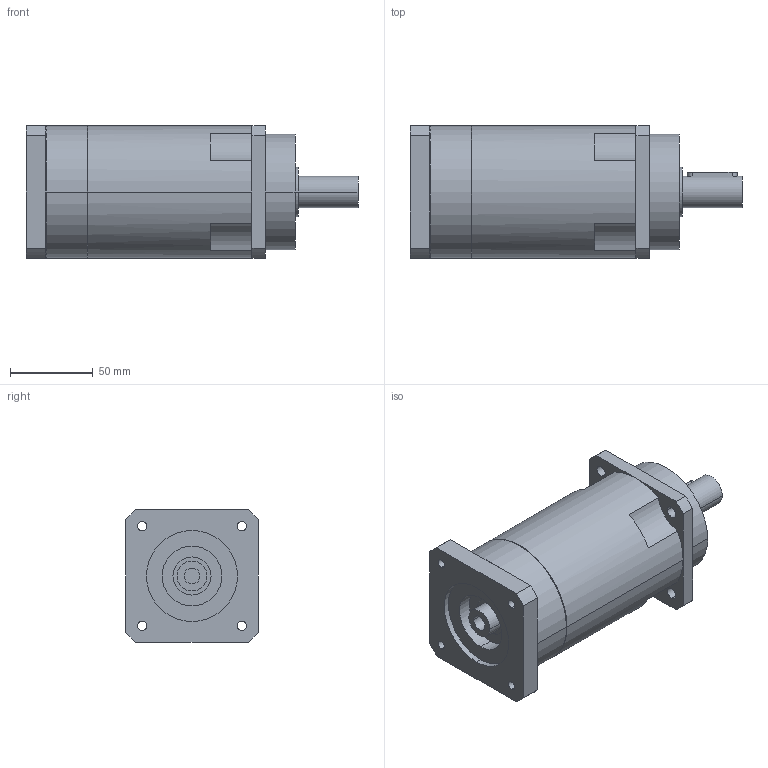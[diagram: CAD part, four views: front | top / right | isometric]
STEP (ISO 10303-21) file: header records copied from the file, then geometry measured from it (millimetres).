
FILE_DESCRIPTION(('CoCreate Modeling STEP Export'),'2;1');
FILE_NAME('GPR100_ig-48-64-80-100-120-144-180-216_19_B5_9.52_P20.stp','2014-08-26T11:57:54',(''),(''),'CoCreate Modeling STEP processor for AP214 (Solid Model)','CoCreate Modeling 16.00C 25-Feb-2009 (C) Parametric Technology GmbH','');
FILE_SCHEMA(('AUTOMOTIVE_DESIGN { 1 0 10303 214 1 1 1 1 }'));
Length unit declared in the file: millimetre
Products named in the file (2): GPR100_ig-48-64-80-100-120-144-180-216_19_B5_9.52_P20
Assembly tree (1 placements, depth 2):
  GPR100_ig-48-64-80-100-120-144-180-216_19_B5_9.52_P20
    GPR100_ig-48-64-80-100-120-144-180-216_19_B5_9.52_P20
Bounding box: 200.4 x 80 x 80 mm (x, y, z)
Volume: 804603.6 mm3; surface area: 64649.2 mm2
Topology: 1 solids, 1 shells, 105 faces, 287 edges, 193 vertices
Faces by surface type: cylinder 60, plane 39, cone 6
Entity records: 3085 total; most frequent: CARTESIAN_POINT 631, ORIENTED_EDGE 570, DIRECTION 436, EDGE_CURVE 285, VERTEX_POINT 193, AXIS2_PLACEMENT_3D 166, EDGE_LOOP 132, FACE_OUTER_BOUND 105
